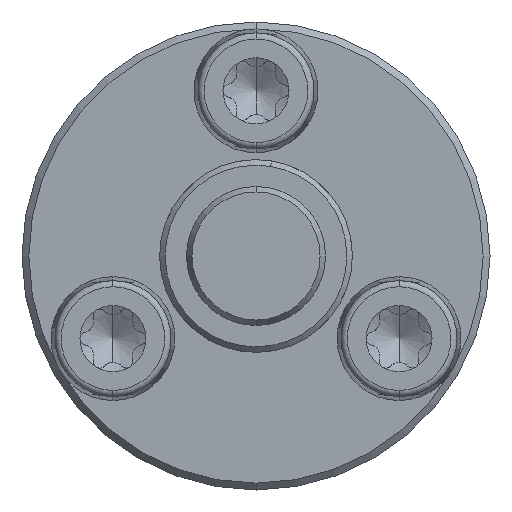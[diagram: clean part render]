
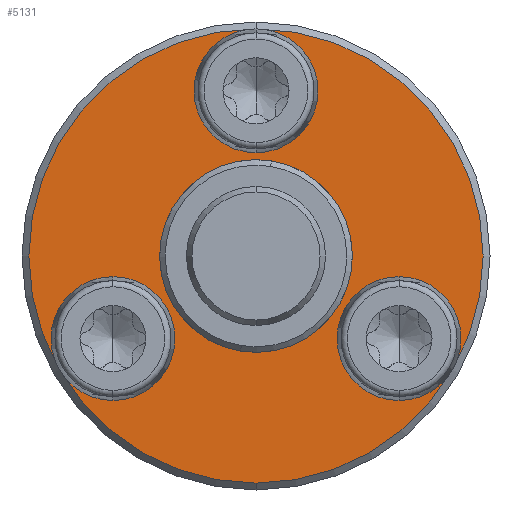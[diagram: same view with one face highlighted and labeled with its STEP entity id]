
A CAD part, front view. The second image highlights one B-rep face of the part: STEP entity #5131.
In plain terms, the highlighted planar face has unit normal (0, -1, 0).
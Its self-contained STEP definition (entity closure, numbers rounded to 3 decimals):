
#161 = EDGE_LOOP ( 'NONE', ( #4418, #3578 ) ) ;
#210 = VERTEX_POINT ( 'NONE', #2820 ) ;
#438 = CARTESIAN_POINT ( 'NONE',  ( -61.881, -8.295, -8.25 ) ) ;
#498 = CIRCLE ( 'NONE', #5973, 3.5 ) ;
#589 = VERTEX_POINT ( 'NONE', #6277 ) ;
#692 = CIRCLE ( 'NONE', #5419, 1.45 ) ;
#926 = EDGE_LOOP ( 'NONE', ( #3419, #5108 ) ) ;
#1024 = CARTESIAN_POINT ( 'NONE',  ( -67.077, -8.295, -1.55 ) ) ;
#1075 = CIRCLE ( 'NONE', #6060, 1.45 ) ;
#1157 = CARTESIAN_POINT ( 'NONE',  ( -56.684, -8.295, -4.45 ) ) ;
#1166 = FACE_BOUND ( 'NONE', #6226, .T. ) ;
#1196 = CARTESIAN_POINT ( 'NONE',  ( -61.881, -8.295, 0. ) ) ;
#1203 = DIRECTION ( 'NONE',  ( 0., -1., 0. ) ) ;
#1271 = CARTESIAN_POINT ( 'NONE',  ( -61.881, -8.295, 8.25 ) ) ;
#1356 = ORIENTED_EDGE ( 'NONE', *, *, #2662, .T. ) ;
#1525 = ORIENTED_EDGE ( 'NONE', *, *, #1866, .F. ) ;
#1529 = CARTESIAN_POINT ( 'NONE',  ( -56.684, -8.295, -3. ) ) ;
#1607 = VERTEX_POINT ( 'NONE', #6095 ) ;
#1725 = EDGE_CURVE ( 'NONE', #4374, #4135, #5145, .T. ) ;
#1772 = EDGE_CURVE ( 'NONE', #3821, #5550, #5004, .T. ) ;
#1810 = EDGE_CURVE ( 'NONE', #5572, #5907, #692, .T. ) ;
#1866 = EDGE_CURVE ( 'NONE', #589, #2610, #4531, .T. ) ;
#1900 = EDGE_CURVE ( 'NONE', #210, #1607, #4372, .T. ) ;
#1968 = DIRECTION ( 'NONE',  ( 0., 0., 1. ) ) ;
#2562 = CIRCLE ( 'NONE', #6082, 1.45 ) ;
#2566 = EDGE_CURVE ( 'NONE', #1607, #210, #498, .T. ) ;
#2610 = VERTEX_POINT ( 'NONE', #2979 ) ;
#2654 = CIRCLE ( 'NONE', #6070, 8.25 ) ;
#2662 = EDGE_CURVE ( 'NONE', #4135, #4374, #2654, .T. ) ;
#2663 = EDGE_CURVE ( 'NONE', #5550, #3821, #1075, .T. ) ;
#2669 = EDGE_CURVE ( 'NONE', #5907, #5572, #2562, .T. ) ;
#2679 = EDGE_CURVE ( 'NONE', #2610, #589, #5000, .T. ) ;
#2723 = CARTESIAN_POINT ( 'NONE',  ( -61.881, -8.295, 0. ) ) ;
#2731 = DIRECTION ( 'NONE',  ( 0., 1., 0. ) ) ;
#2743 = DIRECTION ( 'NONE',  ( 0., 0., 1. ) ) ;
#2820 = CARTESIAN_POINT ( 'NONE',  ( -61.881, -8.295, 3.5 ) ) ;
#2906 = FACE_BOUND ( 'NONE', #161, .T. ) ;
#2979 = CARTESIAN_POINT ( 'NONE',  ( -61.881, -8.295, 4.55 ) ) ;
#3131 = DIRECTION ( 'NONE',  ( 0., 0., -1. ) ) ;
#3150 = DIRECTION ( 'NONE',  ( 0., -1., 0. ) ) ;
#3419 = ORIENTED_EDGE ( 'NONE', *, *, #2663, .F. ) ;
#3435 = CARTESIAN_POINT ( 'NONE',  ( -56.684, -8.295, -1.55 ) ) ;
#3495 = EDGE_LOOP ( 'NONE', ( #1356, #6601 ) ) ;
#3514 = CARTESIAN_POINT ( 'NONE',  ( -61.881, -8.295, 0. ) ) ;
#3535 = ORIENTED_EDGE ( 'NONE', *, *, #1900, .T. ) ;
#3578 = ORIENTED_EDGE ( 'NONE', *, *, #1810, .F. ) ;
#3607 = ORIENTED_EDGE ( 'NONE', *, *, #2679, .F. ) ;
#3778 = CARTESIAN_POINT ( 'NONE',  ( -61.881, -8.295, 0. ) ) ;
#3821 = VERTEX_POINT ( 'NONE', #3435 ) ;
#3832 = DIRECTION ( 'NONE',  ( 0., -1., 0. ) ) ;
#3833 = CARTESIAN_POINT ( 'NONE',  ( -61.881, -8.295, 6. ) ) ;
#4037 = DIRECTION ( 'NONE',  ( 0., 0., 1. ) ) ;
#4046 = DIRECTION ( 'NONE',  ( 0., 1., 0. ) ) ;
#4072 = PLANE ( 'NONE',  #6946 ) ;
#4087 = CARTESIAN_POINT ( 'NONE',  ( -61.881, -8.295, 0. ) ) ;
#4097 = FACE_BOUND ( 'NONE', #926, .T. ) ;
#4126 = DIRECTION ( 'NONE',  ( 0., 0., 1. ) ) ;
#4135 = VERTEX_POINT ( 'NONE', #1271 ) ;
#4288 = ORIENTED_EDGE ( 'NONE', *, *, #2566, .T. ) ;
#4372 = CIRCLE ( 'NONE', #5454, 3.5 ) ;
#4374 = VERTEX_POINT ( 'NONE', #438 ) ;
#4418 = ORIENTED_EDGE ( 'NONE', *, *, #2669, .F. ) ;
#4531 = CIRCLE ( 'NONE', #5445, 1.45 ) ;
#4760 = DIRECTION ( 'NONE',  ( 0., 0., -1. ) ) ;
#4779 = FACE_OUTER_BOUND ( 'NONE', #3495, .T. ) ;
#5000 = CIRCLE ( 'NONE', #6085, 1.45 ) ;
#5004 = CIRCLE ( 'NONE', #5416, 1.45 ) ;
#5108 = ORIENTED_EDGE ( 'NONE', *, *, #1772, .F. ) ;
#5131 = ADVANCED_FACE ( 'NONE', ( #4779, #4097, #2906, #6759, #1166 ), #4072, .F. ) ;
#5145 = CIRCLE ( 'NONE', #5388, 8.25 ) ;
#5388 = AXIS2_PLACEMENT_3D ( 'NONE', #1196, #1203, #1968 ) ;
#5416 = AXIS2_PLACEMENT_3D ( 'NONE', #1529, #3150, #3131 ) ;
#5419 = AXIS2_PLACEMENT_3D ( 'NONE', #6362, #6198, #5696 ) ;
#5445 = AXIS2_PLACEMENT_3D ( 'NONE', #3833, #3832, #4760 ) ;
#5454 = AXIS2_PLACEMENT_3D ( 'NONE', #3778, #6602, #4126 ) ;
#5550 = VERTEX_POINT ( 'NONE', #1157 ) ;
#5572 = VERTEX_POINT ( 'NONE', #1024 ) ;
#5696 = DIRECTION ( 'NONE',  ( 0., 0., -1. ) ) ;
#5907 = VERTEX_POINT ( 'NONE', #6160 ) ;
#5973 = AXIS2_PLACEMENT_3D ( 'NONE', #2723, #2731, #2743 ) ;
#6060 = AXIS2_PLACEMENT_3D ( 'NONE', #6846, #6843, #6842 ) ;
#6070 = AXIS2_PLACEMENT_3D ( 'NONE', #3514, #6883, #6863 ) ;
#6082 = AXIS2_PLACEMENT_3D ( 'NONE', #6824, #6818, #6811 ) ;
#6085 = AXIS2_PLACEMENT_3D ( 'NONE', #6800, #6799, #6782 ) ;
#6095 = CARTESIAN_POINT ( 'NONE',  ( -61.881, -8.295, -3.5 ) ) ;
#6160 = CARTESIAN_POINT ( 'NONE',  ( -67.077, -8.295, -4.45 ) ) ;
#6198 = DIRECTION ( 'NONE',  ( 0., -1., 0. ) ) ;
#6226 = EDGE_LOOP ( 'NONE', ( #4288, #3535 ) ) ;
#6277 = CARTESIAN_POINT ( 'NONE',  ( -61.881, -8.295, 7.45 ) ) ;
#6362 = CARTESIAN_POINT ( 'NONE',  ( -67.077, -8.295, -3. ) ) ;
#6482 = EDGE_LOOP ( 'NONE', ( #3607, #1525 ) ) ;
#6601 = ORIENTED_EDGE ( 'NONE', *, *, #1725, .T. ) ;
#6602 = DIRECTION ( 'NONE',  ( 0., 1., 0. ) ) ;
#6759 = FACE_BOUND ( 'NONE', #6482, .T. ) ;
#6782 = DIRECTION ( 'NONE',  ( 0., 0., -1. ) ) ;
#6799 = DIRECTION ( 'NONE',  ( 0., -1., 0. ) ) ;
#6800 = CARTESIAN_POINT ( 'NONE',  ( -61.881, -8.295, 6. ) ) ;
#6811 = DIRECTION ( 'NONE',  ( 0., 0., -1. ) ) ;
#6818 = DIRECTION ( 'NONE',  ( 0., -1., 0. ) ) ;
#6824 = CARTESIAN_POINT ( 'NONE',  ( -67.077, -8.295, -3. ) ) ;
#6842 = DIRECTION ( 'NONE',  ( 0., 0., -1. ) ) ;
#6843 = DIRECTION ( 'NONE',  ( 0., -1., 0. ) ) ;
#6846 = CARTESIAN_POINT ( 'NONE',  ( -56.684, -8.295, -3. ) ) ;
#6863 = DIRECTION ( 'NONE',  ( 0., 0., 1. ) ) ;
#6883 = DIRECTION ( 'NONE',  ( 0., -1., 0. ) ) ;
#6946 = AXIS2_PLACEMENT_3D ( 'NONE', #4087, #4046, #4037 ) ;
